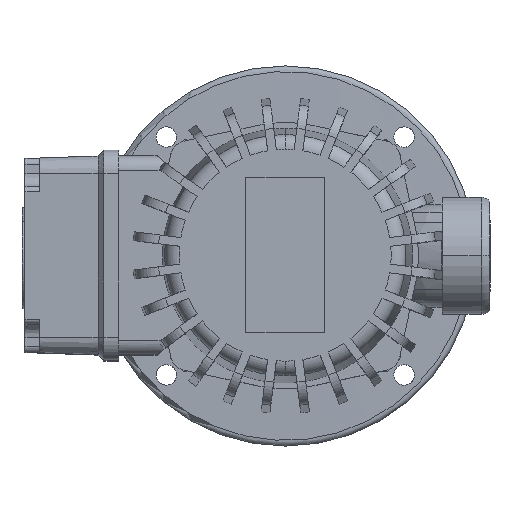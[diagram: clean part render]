
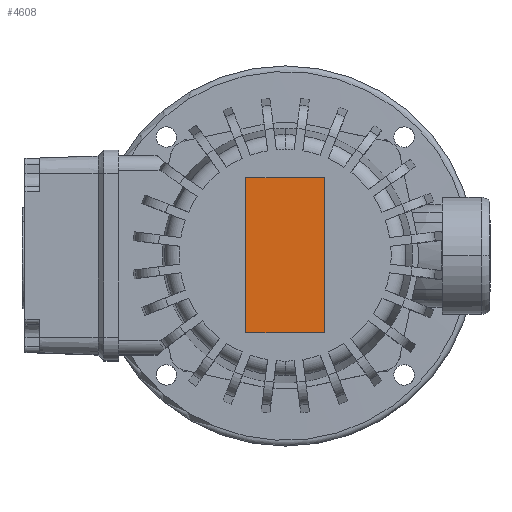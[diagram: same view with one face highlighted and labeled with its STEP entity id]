
A CAD part, top view. The second image highlights one B-rep face of the part: STEP entity #4608.
In plain terms, the highlighted planar face has unit normal (0, 0, 1).
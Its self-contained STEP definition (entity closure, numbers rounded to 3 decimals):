
#3236=EDGE_CURVE('',#5096,#8810,#9522,.T.);
#3426=EDGE_CURVE('',#8810,#9236,#9724,.T.);
#4608=ADVANCED_FACE('',(#11021),#11022,.T.);
#5096=VERTEX_POINT('',#11550);
#5390=EDGE_CURVE('',#6696,#5096,#11874,.T.);
#6574=EDGE_CURVE('',#9236,#6696,#13160,.T.);
#6696=VERTEX_POINT('',#13292);
#8810=VERTEX_POINT('',#15614);
#9236=VERTEX_POINT('',#16083);
#9522=LINE('',#16477,#16478);
#9724=LINE('',#16891,#16892);
#11021=FACE_OUTER_BOUND('',#19448,.T.);
#11022=PLANE('',#19449);
#11550=CARTESIAN_POINT('',(13.5,26.5,103.0));
#11874=LINE('',#21018,#21019);
#13160=LINE('',#23684,#23685);
#13292=CARTESIAN_POINT('',(-13.5,26.5,103.0));
#15614=CARTESIAN_POINT('',(13.5,-26.5,103.0));
#16083=CARTESIAN_POINT('',(-13.5,-26.5,103.0));
#16477=CARTESIAN_POINT('',(13.5,0.0,103.0));
#16478=VECTOR('',#30017,1.0);
#16891=CARTESIAN_POINT('',(0.0,-26.5,103.0));
#16892=VECTOR('',#30199,1.0);
#19448=EDGE_LOOP('',(#31769,#31770,#31771,#31772));
#19449=AXIS2_PLACEMENT_3D('',#31773,#31774,#31775);
#21018=CARTESIAN_POINT('',(0.0,26.5,103.0));
#21019=VECTOR('',#32700,1.0);
#23684=CARTESIAN_POINT('',(-13.5,0.0,103.0));
#23685=VECTOR('',#34050,1.0);
#30017=DIRECTION('',(0.0,-1.0,0.0));
#30199=DIRECTION('',(-1.0,0.0,0.0));
#31769=ORIENTED_EDGE('',*,*,#5390,.F.);
#31770=ORIENTED_EDGE('',*,*,#6574,.F.);
#31771=ORIENTED_EDGE('',*,*,#3426,.F.);
#31772=ORIENTED_EDGE('',*,*,#3236,.F.);
#31773=CARTESIAN_POINT('',(0.0,0.0,103.0));
#31774=DIRECTION('',(0.0,-0.0,1.0));
#31775=DIRECTION('',(0.0,1.0,0.0));
#32700=DIRECTION('',(1.0,0.0,0.0));
#34050=DIRECTION('',(0.0,1.0,0.0));
